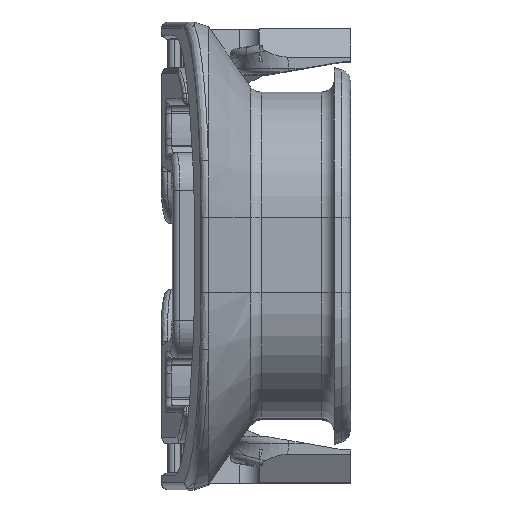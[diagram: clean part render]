
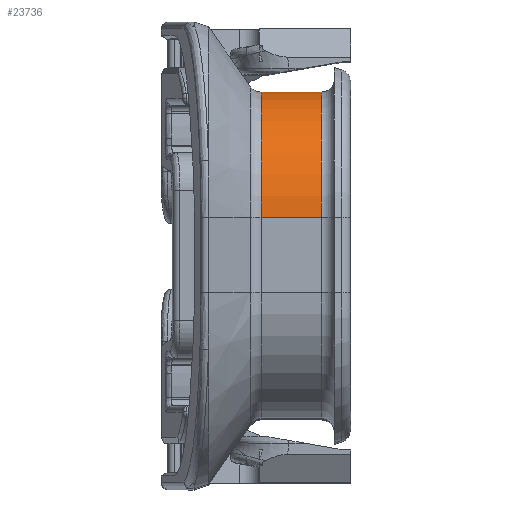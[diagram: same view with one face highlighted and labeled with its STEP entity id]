
A CAD part, top view. The second image highlights one B-rep face of the part: STEP entity #23736.
In plain terms, the highlighted cylindrical face has radius 19.264 mm (diameter 38.528 mm), a partial arc.
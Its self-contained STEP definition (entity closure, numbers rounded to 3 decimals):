
#13 = DIRECTION ( 'NONE',  ( -1., 0., 0. ) ) ;
#1537 = DIRECTION ( 'NONE',  ( 0., 0., 1. ) ) ;
#1935 = ORIENTED_EDGE ( 'NONE', *, *, #6206, .F. ) ;
#2053 = DIRECTION ( 'NONE',  ( 0., 0., 1. ) ) ;
#4671 = ORIENTED_EDGE ( 'NONE', *, *, #23405, .T. ) ;
#5895 = VERTEX_POINT ( 'NONE', #18282 ) ;
#6206 = EDGE_CURVE ( 'NONE', #16009, #24499, #6496, .T. ) ;
#6294 = VERTEX_POINT ( 'NONE', #16483 ) ;
#6496 = LINE ( 'NONE', #8150, #22020 ) ;
#6868 = DIRECTION ( 'NONE',  ( -1., 0., 0. ) ) ;
#7753 = CARTESIAN_POINT ( 'NONE',  ( 19.5, 5.75, 61. ) ) ;
#8150 = CARTESIAN_POINT ( 'NONE',  ( 10.272, 5.75, 80.264 ) ) ;
#9884 = DIRECTION ( 'NONE',  ( 0., 0., 1. ) ) ;
#9998 = VECTOR ( 'NONE', #21043, 1000. ) ;
#11215 = AXIS2_PLACEMENT_3D ( 'NONE', #21355, #19089, #9884 ) ;
#11277 = FACE_OUTER_BOUND ( 'NONE', #19179, .T. ) ;
#11768 = CIRCLE ( 'NONE', #22634, 19.264 ) ;
#12084 = ORIENTED_EDGE ( 'NONE', *, *, #12302, .T. ) ;
#12302 = EDGE_CURVE ( 'NONE', #16009, #5895, #16818, .T. ) ;
#15058 = EDGE_CURVE ( 'NONE', #24499, #6294, #11768, .T. ) ;
#15131 = CARTESIAN_POINT ( 'NONE',  ( 10.272, 25.014, 61. ) ) ;
#15316 = CYLINDRICAL_SURFACE ( 'NONE', #11215, 19.264 ) ;
#15857 = DIRECTION ( 'NONE',  ( -1., 0., 0. ) ) ;
#16009 = VERTEX_POINT ( 'NONE', #18051 ) ;
#16483 = CARTESIAN_POINT ( 'NONE',  ( 10.272, 25.014, 61. ) ) ;
#16818 = CIRCLE ( 'NONE', #20048, 19.264 ) ;
#18051 = CARTESIAN_POINT ( 'NONE',  ( 19.5, 5.75, 80.264 ) ) ;
#18282 = CARTESIAN_POINT ( 'NONE',  ( 19.5, 25.014, 61. ) ) ;
#18787 = CARTESIAN_POINT ( 'NONE',  ( 10.272, 5.75, 80.264 ) ) ;
#19089 = DIRECTION ( 'NONE',  ( -1., 0., 0. ) ) ;
#19155 = ORIENTED_EDGE ( 'NONE', *, *, #15058, .F. ) ;
#19179 = EDGE_LOOP ( 'NONE', ( #19155, #1935, #12084, #4671 ) ) ;
#20048 = AXIS2_PLACEMENT_3D ( 'NONE', #7753, #13, #2053 ) ;
#20790 = LINE ( 'NONE', #15131, #9998 ) ;
#21043 = DIRECTION ( 'NONE',  ( -1., 0., 0. ) ) ;
#21355 = CARTESIAN_POINT ( 'NONE',  ( 22.618, 5.75, 61. ) ) ;
#22020 = VECTOR ( 'NONE', #15857, 1000. ) ;
#22634 = AXIS2_PLACEMENT_3D ( 'NONE', #24185, #6868, #1537 ) ;
#23405 = EDGE_CURVE ( 'NONE', #5895, #6294, #20790, .T. ) ;
#23736 = ADVANCED_FACE ( 'NONE', ( #11277 ), #15316, .T. ) ;
#24185 = CARTESIAN_POINT ( 'NONE',  ( 10.272, 5.75, 61. ) ) ;
#24499 = VERTEX_POINT ( 'NONE', #18787 ) ;
